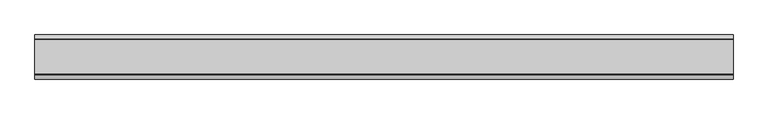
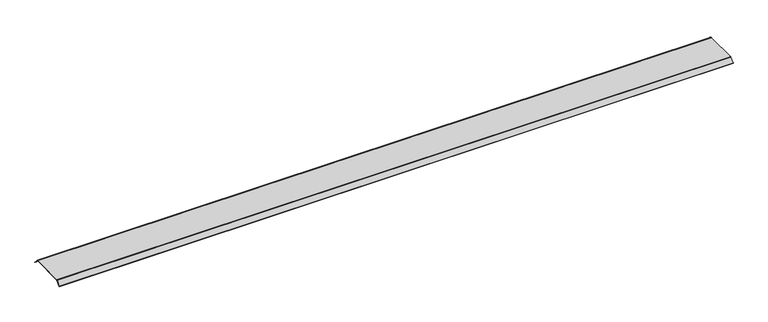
"""IFC4 building model written with IfcOpenShell, lengths in millimetres: proxy geometry, Electrical_Installation_Hager_Blank-Cover-800mm-Double-Sided-Height-40mm : Electrical_Installation_Hager_Blank-Cover-800mm-Double-Sided-Height-40mm."""

from ifc_helpers import new_model, si_unit, point, frame, frame_2d, origin, place, context, project, spatial, polyline, circle_curve, trimmed, segment, composite_curve, outline, extrude, source, transform, mapped, element, save


def electrical_fixtures_036a8886(model_context):
    return source(origin(), model_context, "Body", "SweptSolid", [
        extrude(outline(composite_curve([segment(trimmed(circle_curve(frame_2d((148.9838855, 19.0468826)), 6.4531174), [point((148.9838855, 25.5))], [point((153.5469286, 23.6099257))], False, "CARTESIAN"), True, "CONTINUOUS"), segment(polyline([(153.5469286, 23.6099257), (190.0386103, -12.8817561), (187.91729, -15.0030764), (151.2293119, 21.6849016)]), True, "CONTINUOUS"), segment(trimmed(circle_curve(frame_2d((149.2614904, 19.7170801)), 2.7829199), [point((151.2293119, 21.6849016))], [point((149.2614904, 22.5))], True, "CARTESIAN"), True, "CONTINUOUS"), segment(polyline([(149.2614904, 22.5), (-149.8229541, 22.5)]), True, "CONTINUOUS"), segment(trimmed(circle_curve(frame_2d((-149.8229541, 21.0725733)), 1.4274267), [point((-149.8229541, 22.5))], [point((-150.8322972, 22.0819164))], True, "CARTESIAN"), True, "CONTINUOUS"), segment(polyline([(-150.8322972, 22.0819164), (-187.91729, -15.0030764), (-190.0386103, -12.8817561), (-152.8206472, 24.336207)]), True, "CONTINUOUS"), segment(trimmed(circle_curve(frame_2d((-150.0110025, 21.5265623)), 3.9734377), [point((-152.8206472, 24.336207))], [point((-150.0110025, 25.5))], False, "CARTESIAN"), True, "CONTINUOUS"), segment(polyline([(-150.0110025, 25.5), (148.9838855, 25.5)]), True, "CONTINUOUS")], self_intersect=False)), frame((0.0, 0.0, 0.0), z_axis=(1.0, 0.0, 0.0), x_axis=(0.0, 1.0, 0.0)), (0.0, 0.0, 1.0), 6011.6956759),
    ])


if __name__ == "__main__":
    model = new_model("IFC4")
    model_context = context("Model", 3, world=origin())
    ifc_project = project(units=[si_unit("LENGTHUNIT", "METRE", prefix="MILLI")], contexts=[model_context])
    site = spatial("IfcSite", under=ifc_project)
    building = spatial("IfcBuilding", under=site)
    placement = place(None, origin())
    electrical_fixtures_shape = electrical_fixtures_036a8886(model_context)
    element("IfcBuildingElementProxy", 1, Name="Electrical_Installation_Hager_Blank-Cover-800mm-Double-Sided-Height-40mm : Electrical_Installation_Hager_Blank-Cover-800mm-Double-Sided-Height-40mm", ObjectType="Electrical_Installation_Hager_Blank-Cover-800mm-Double-Sided-Height-40mm : Electrical_Installation_Hager_Blank-Cover-800mm-Double-Sided-Height-40mm", at=placement, inside=building, context=model_context, shape_type="MappedRepresentation", body=[
        mapped(electrical_fixtures_shape, transform((0.0, 0.0, 0.0), x_axis=(1.0, 0.0, 0.0), y_axis=(0.0, 1.0, 0.0), z_axis=(0.0, 0.0, 1.0))),
    ])
    save(model, "model.ifc")
